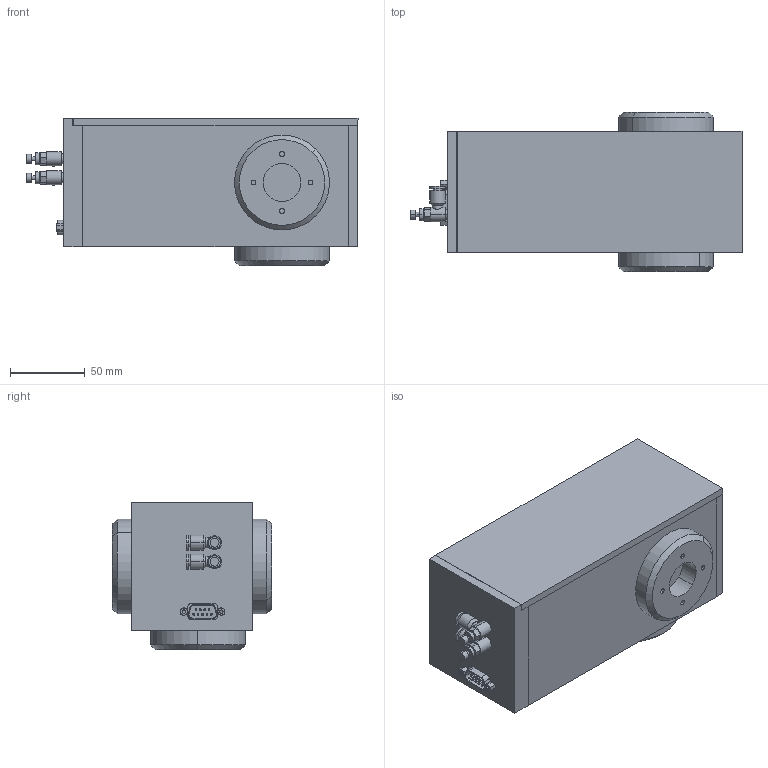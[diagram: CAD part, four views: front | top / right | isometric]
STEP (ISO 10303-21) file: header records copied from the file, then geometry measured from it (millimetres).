
FILE_DESCRIPTION (( 'STEP AP214' ), '1' );
FILE_NAME ('BSU-19-PNEU-LH.STEP', '2016-07-07T19:23:43', ( '' ), ( '' ), 'SwSTEP 2.0', 'SolidWorks 2016', '' );
FILE_SCHEMA (( 'AUTOMOTIVE_DESIGN' ));
Length unit declared in the file: inch
Products named in the file (1): BSU-19-PNEU-LH
Bounding box: 221.92 x 106.36 x 98.42 mm (x, y, z)
Volume: 1467568.3 mm3; surface area: 95493 mm2
Topology: 1 solids, 1 shells, 303 faces, 651 edges, 405 vertices
Faces by surface type: cylinder 124, plane 113, torus 56, cone 10
Entity records: 8633 total; most frequent: CARTESIAN_POINT 1825, DIRECTION 1539, ORIENTED_EDGE 1298, EDGE_CURVE 649, AXIS2_PLACEMENT_3D 638, VERTEX_POINT 404, EDGE_LOOP 359, CIRCLE 334
